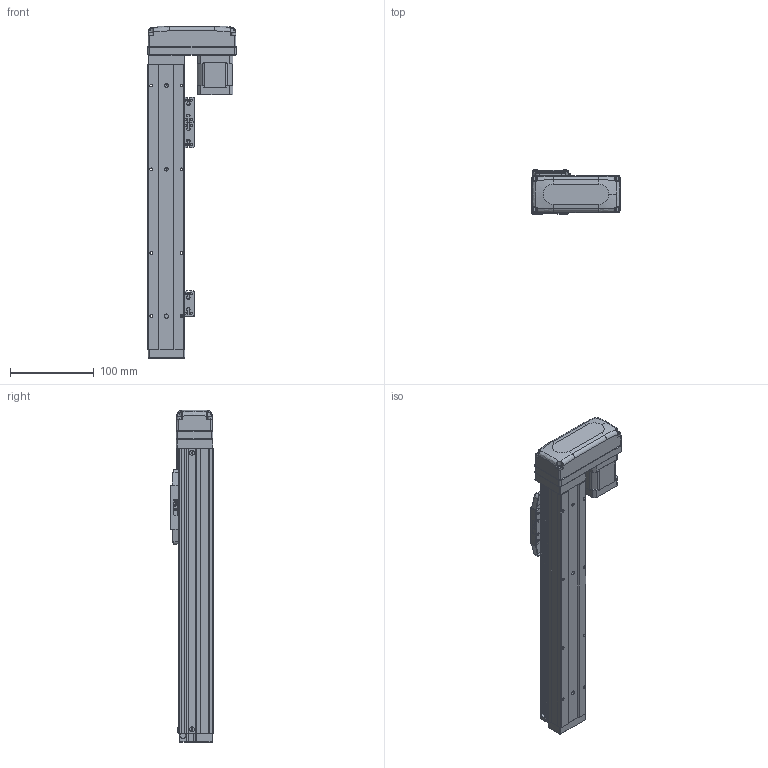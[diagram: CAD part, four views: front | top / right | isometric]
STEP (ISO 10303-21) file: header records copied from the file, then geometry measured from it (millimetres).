
FILE_DESCRIPTION (( 'STEP AP203' ), '1' );
FILE_NAME ('GTH4-200-BL-B42-C4.step', '2023-02-14T00:17:51', ( '微软用户' ), ( '微软中国' ), 'SwSTEP 2.0', 'SolidWorks 2020', '' );
FILE_SCHEMA (( 'CONFIG_CONTROL_DESIGN' ));
Length unit declared in the file: millimetre
Products named in the file (19): 42CM06; GBT70.1-2000 M3×16; GBT 70.1-M2.5×6; GTH4-200-BL-B42-C4; BTH50-028; BTH40-004; BTH50-023; BTH40-013; BTH40-001-50_BTH40-001-200; BTH50-024; GBT 70.3-M3℅6; BTH40-003; GBT 70.1-M3℅6; BTH40-027-1; BTH40-006; GBT96.1-2002 3×0.8; BTH50-026; BTH-M3X5X6; BTH40-022
Assembly tree (47 placements, depth 2):
  GTH4-200-BL-B42-C4
    BTH40-001-50_BTH40-001-200
    BTH40-003
    BTH40-006
    BTH-M3X5X6  x8
    GBT70.1-2000 M3×16  x4
    BTH50-028  x2
    BTH50-023  x3
    BTH50-024  x3
    GBT 70.1-M3℅6  x6
    GBT96.1-2002 3×0.8  x6
    BTH40-022
    GBT 70.1-M2.5×6  x2
    BTH40-004
    BTH40-013
    GBT 70.3-M3℅6  x4
    BTH40-027-1
    BTH50-026
    42CM06
Bounding box: 105 x 52 x 396 mm (x, y, z)
Volume: 782652.4 mm3; surface area: 178366.2 mm2
Topology: 56 solids, 56 shells, 3307 faces, 7708 edges, 4610 vertices
Faces by surface type: cone 1488, plane 1076, cylinder 565, torus 124, bspline 42, sphere 12
Entity records: 77094 total; most frequent: CARTESIAN_POINT 13913, DIRECTION 13689, ORIENTED_EDGE 12062, EDGE_CURVE 6031, AXIS2_PLACEMENT_3D 5249, VERTEX_POINT 3597, LINE 3191, VECTOR 3191
